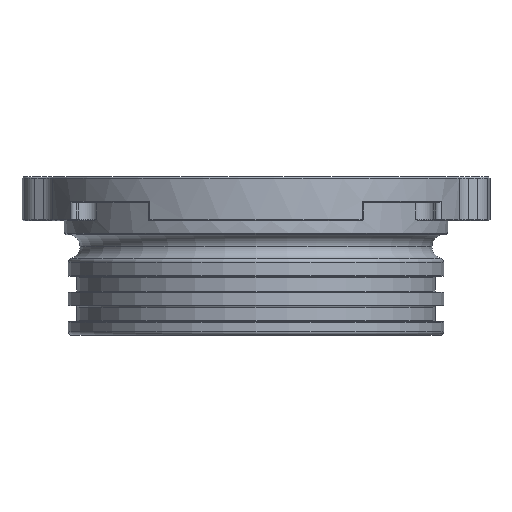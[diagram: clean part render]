
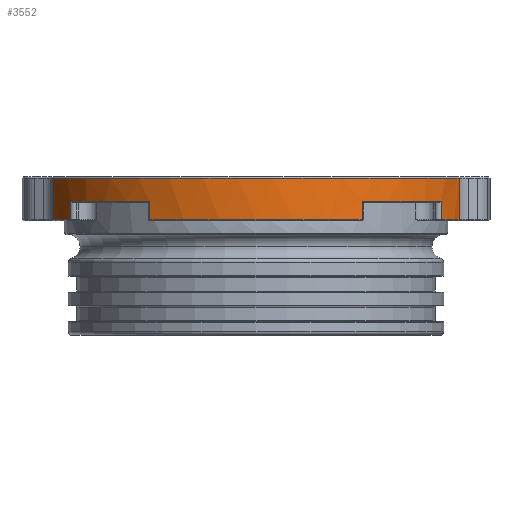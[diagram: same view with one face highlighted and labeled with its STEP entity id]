
A CAD part, front view. The second image highlights one B-rep face of the part: STEP entity #3552.
In plain terms, the highlighted cylindrical face has radius 29 mm (diameter 58 mm), a partial arc.
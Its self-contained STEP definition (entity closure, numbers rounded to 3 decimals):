
#96 = VERTEX_POINT ( 'NONE', #14204 ) ;
#564 = VERTEX_POINT ( 'NONE', #16882 ) ;
#1395 = LINE ( 'NONE', #2906, #22768 ) ;
#1528 = CARTESIAN_POINT ( 'NONE',  ( 27.555, -9.039, 15.7 ) ) ;
#1658 = LINE ( 'NONE', #20596, #3432 ) ;
#1831 = VERTEX_POINT ( 'NONE', #1528 ) ;
#2133 = AXIS2_PLACEMENT_3D ( 'NONE', #21563, #4414, #11706 ) ;
#2494 = CIRCLE ( 'NONE', #16783, 29. ) ;
#2507 = AXIS2_PLACEMENT_3D ( 'NONE', #15710, #10198, #4440 ) ;
#2542 = EDGE_CURVE ( 'NONE', #6310, #17989, #2494, .T. ) ;
#2556 = DIRECTION ( 'NONE',  ( -1., 0., 0. ) ) ;
#2906 = CARTESIAN_POINT ( 'NONE',  ( 14.387, -25.18, 0. ) ) ;
#3038 = DIRECTION ( 'NONE',  ( 0., 0., 1. ) ) ;
#3119 = EDGE_CURVE ( 'NONE', #6218, #96, #7830, .T. ) ;
#3175 = DIRECTION ( 'NONE',  ( 0., 0., -1. ) ) ;
#3432 = VECTOR ( 'NONE', #3175, 1000. ) ;
#3552 = ADVANCED_FACE ( 'NONE', ( #13763 ), #17862, .T. ) ;
#3585 = DIRECTION ( 'NONE',  ( 1., 0., 0. ) ) ;
#3850 = CARTESIAN_POINT ( 'NONE',  ( 25.18, -14.387, 18.2 ) ) ;
#4363 = DIRECTION ( 'NONE',  ( 0., 0., 1. ) ) ;
#4414 = DIRECTION ( 'NONE',  ( 0., 0., 1. ) ) ;
#4440 = DIRECTION ( 'NONE',  ( -1., 0., 0. ) ) ;
#4595 = AXIS2_PLACEMENT_3D ( 'NONE', #19075, #24939, #3585 ) ;
#4921 = CARTESIAN_POINT ( 'NONE',  ( 14.387, -25.18, 18.2 ) ) ;
#5868 = CARTESIAN_POINT ( 'NONE',  ( -14.387, -25.18, 18.2 ) ) ;
#6218 = VERTEX_POINT ( 'NONE', #22448 ) ;
#6310 = VERTEX_POINT ( 'NONE', #4921 ) ;
#6464 = DIRECTION ( 'NONE',  ( 0., 0., 1. ) ) ;
#6775 = CIRCLE ( 'NONE', #21084, 29. ) ;
#6882 = EDGE_CURVE ( 'NONE', #8469, #1831, #9098, .T. ) ;
#6895 = DIRECTION ( 'NONE',  ( 0., 0., -1. ) ) ;
#6931 = AXIS2_PLACEMENT_3D ( 'NONE', #23897, #10451, #10693 ) ;
#7417 = ORIENTED_EDGE ( 'NONE', *, *, #2542, .T. ) ;
#7830 = CIRCLE ( 'NONE', #2507, 29. ) ;
#8469 = VERTEX_POINT ( 'NONE', #10449 ) ;
#8542 = EDGE_LOOP ( 'NONE', ( #23886, #21266, #17292, #19204, #22671, #17783, #15492, #7417, #22668, #16186, #21725, #8632 ) ) ;
#8632 = ORIENTED_EDGE ( 'NONE', *, *, #3119, .T. ) ;
#8852 = EDGE_CURVE ( 'NONE', #17989, #8469, #1658, .T. ) ;
#9098 = CIRCLE ( 'NONE', #4595, 29. ) ;
#9127 = AXIS2_PLACEMENT_3D ( 'NONE', #14765, #6464, #10432 ) ;
#9295 = EDGE_CURVE ( 'NONE', #564, #15795, #15938, .T. ) ;
#9370 = VERTEX_POINT ( 'NONE', #20439 ) ;
#9934 = VECTOR ( 'NONE', #4363, 1000. ) ;
#9951 = CARTESIAN_POINT ( 'NONE',  ( -27.555, -9.039, 0. ) ) ;
#10198 = DIRECTION ( 'NONE',  ( 0., 0., -1. ) ) ;
#10432 = DIRECTION ( 'NONE',  ( 1., 0., 0. ) ) ;
#10449 = CARTESIAN_POINT ( 'NONE',  ( 25.18, -14.387, 15.7 ) ) ;
#10451 = DIRECTION ( 'NONE',  ( 0., 0., 1. ) ) ;
#10693 = DIRECTION ( 'NONE',  ( -1., 0., 0. ) ) ;
#11022 = VERTEX_POINT ( 'NONE', #13984 ) ;
#11706 = DIRECTION ( 'NONE',  ( 1., 0., 0. ) ) ;
#12394 = CARTESIAN_POINT ( 'NONE',  ( 27.555, -9.039, 0. ) ) ;
#12431 = EDGE_CURVE ( 'NONE', #13083, #564, #16136, .T. ) ;
#12901 = CARTESIAN_POINT ( 'NONE',  ( -14.387, -25.18, 0. ) ) ;
#13083 = VERTEX_POINT ( 'NONE', #16476 ) ;
#13763 = FACE_OUTER_BOUND ( 'NONE', #8542, .T. ) ;
#13819 = DIRECTION ( 'NONE',  ( 0., 0., 1. ) ) ;
#13984 = CARTESIAN_POINT ( 'NONE',  ( -27.555, -9.039, 15.7 ) ) ;
#14204 = CARTESIAN_POINT ( 'NONE',  ( -27.555, -9.039, 21.3 ) ) ;
#14765 = CARTESIAN_POINT ( 'NONE',  ( 0., 0., 15.7 ) ) ;
#14826 = CARTESIAN_POINT ( 'NONE',  ( 0., 0., 15.7 ) ) ;
#15057 = EDGE_CURVE ( 'NONE', #23784, #9370, #22188, .T. ) ;
#15071 = DIRECTION ( 'NONE',  ( 1., 0., 0. ) ) ;
#15492 = ORIENTED_EDGE ( 'NONE', *, *, #22692, .T. ) ;
#15710 = CARTESIAN_POINT ( 'NONE',  ( 0., 0., 21.3 ) ) ;
#15795 = VERTEX_POINT ( 'NONE', #5868 ) ;
#15938 = CIRCLE ( 'NONE', #6931, 29. ) ;
#16136 = LINE ( 'NONE', #21758, #9934 ) ;
#16186 = ORIENTED_EDGE ( 'NONE', *, *, #6882, .T. ) ;
#16476 = CARTESIAN_POINT ( 'NONE',  ( -25.18, -14.387, 15.7 ) ) ;
#16750 = DIRECTION ( 'NONE',  ( 0., 0., 1. ) ) ;
#16783 = AXIS2_PLACEMENT_3D ( 'NONE', #20087, #13819, #2556 ) ;
#16882 = CARTESIAN_POINT ( 'NONE',  ( -25.18, -14.387, 18.2 ) ) ;
#17292 = ORIENTED_EDGE ( 'NONE', *, *, #12431, .T. ) ;
#17783 = ORIENTED_EDGE ( 'NONE', *, *, #15057, .T. ) ;
#17862 = CYLINDRICAL_SURFACE ( 'NONE', #2133, 29. ) ;
#17989 = VERTEX_POINT ( 'NONE', #3850 ) ;
#18187 = EDGE_CURVE ( 'NONE', #1831, #6218, #23676, .T. ) ;
#18364 = EDGE_CURVE ( 'NONE', #11022, #13083, #6775, .T. ) ;
#18437 = EDGE_CURVE ( 'NONE', #15795, #23784, #24424, .T. ) ;
#19075 = CARTESIAN_POINT ( 'NONE',  ( 0., 0., 15.7 ) ) ;
#19204 = ORIENTED_EDGE ( 'NONE', *, *, #9295, .T. ) ;
#19418 = LINE ( 'NONE', #9951, #25181 ) ;
#19423 = VECTOR ( 'NONE', #20225, 1000. ) ;
#19687 = EDGE_CURVE ( 'NONE', #96, #11022, #19418, .T. ) ;
#20087 = CARTESIAN_POINT ( 'NONE',  ( 0., 0., 18.2 ) ) ;
#20225 = DIRECTION ( 'NONE',  ( 0., 0., 1. ) ) ;
#20274 = VECTOR ( 'NONE', #6895, 1000. ) ;
#20439 = CARTESIAN_POINT ( 'NONE',  ( 14.387, -25.18, 15.7 ) ) ;
#20596 = CARTESIAN_POINT ( 'NONE',  ( 25.18, -14.387, 0. ) ) ;
#21084 = AXIS2_PLACEMENT_3D ( 'NONE', #14826, #16750, #15071 ) ;
#21266 = ORIENTED_EDGE ( 'NONE', *, *, #18364, .T. ) ;
#21563 = CARTESIAN_POINT ( 'NONE',  ( 0., 0., 0. ) ) ;
#21725 = ORIENTED_EDGE ( 'NONE', *, *, #18187, .T. ) ;
#21758 = CARTESIAN_POINT ( 'NONE',  ( -25.18, -14.387, 0. ) ) ;
#22169 = CARTESIAN_POINT ( 'NONE',  ( -14.387, -25.18, 15.7 ) ) ;
#22188 = CIRCLE ( 'NONE', #9127, 29. ) ;
#22448 = CARTESIAN_POINT ( 'NONE',  ( 27.555, -9.039, 21.3 ) ) ;
#22668 = ORIENTED_EDGE ( 'NONE', *, *, #8852, .T. ) ;
#22671 = ORIENTED_EDGE ( 'NONE', *, *, #18437, .T. ) ;
#22692 = EDGE_CURVE ( 'NONE', #9370, #6310, #1395, .T. ) ;
#22768 = VECTOR ( 'NONE', #3038, 1000. ) ;
#23676 = LINE ( 'NONE', #12394, #19423 ) ;
#23784 = VERTEX_POINT ( 'NONE', #22169 ) ;
#23886 = ORIENTED_EDGE ( 'NONE', *, *, #19687, .T. ) ;
#23897 = CARTESIAN_POINT ( 'NONE',  ( 0., 0., 18.2 ) ) ;
#24424 = LINE ( 'NONE', #12901, #20274 ) ;
#24939 = DIRECTION ( 'NONE',  ( 0., 0., 1. ) ) ;
#25039 = DIRECTION ( 'NONE',  ( 0., 0., -1. ) ) ;
#25181 = VECTOR ( 'NONE', #25039, 1000. ) ;
